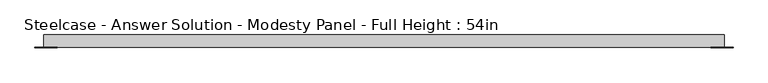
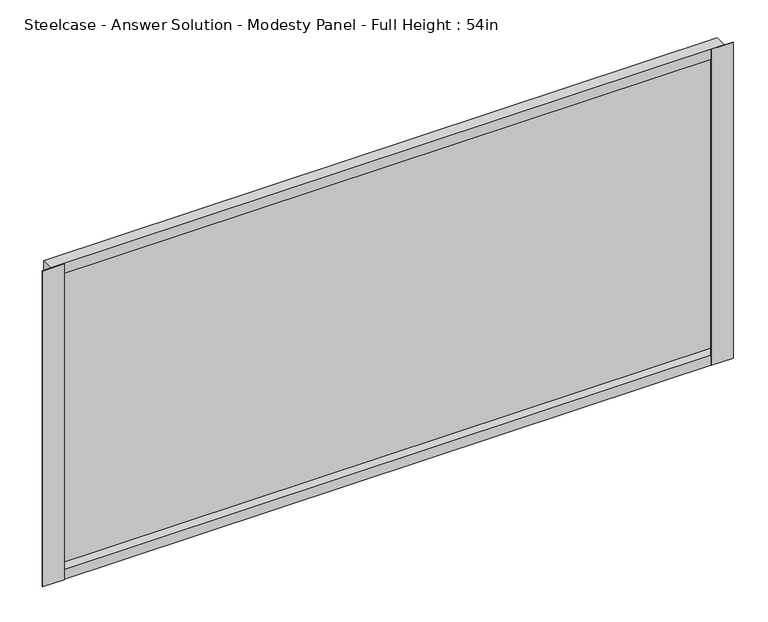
"""IFC4 building model written with IfcOpenShell, lengths in millimetres: furniture geometry, Steelcase - Answer Solution - Modesty Panel - Full Height : 54in."""

from ifc_helpers import new_model, si_unit, frame, origin, place, context, project, spatial, polyline, outline, extrude, faceted_brep, source, transform, mapped, element, save


def steelcase_answer_solution_modesty_panel_full_height_54in_4394ff8e(model_context):
    return source(origin(), model_context, "Body", "SolidModel", [
        extrude(outline(polyline([(1915.1400478, -14.2668826), (1915.1400478, -15.0593624), (1870.7248254, -15.0593624), (1870.7248254, -14.2668826), (1915.1400478, -14.2668826)])), frame((0.0, 0.0, 17.653), z_axis=(0.0, 0.0, 1.0), x_axis=(1.0, 0.0, 0.0)), (0.0, 0.0, 1.0), 678.18),
        extrude(outline(polyline([(556.9673392, -14.2668826), (556.9673392, -15.0593624), (512.5520826, -15.0593624), (512.5520826, -14.2668826), (556.9673392, -14.2668826)])), frame((0.0, 0.0, 17.653), z_axis=(0.0, 0.0, 1.0), x_axis=(1.0, 0.0, 0.0)), (0.0, 0.0, 1.0), 678.18),
        faceted_brep([(530.0780827, 10.9045177, 17.653), (530.0780827, -14.2668826, 17.653), (530.0780827, -14.2668826, 695.833), (530.0780827, 10.9045177, 695.833), (1897.6140827, -14.2668826, 17.653), (1897.6140827, 10.9045177, 17.653), (1897.6140827, 10.9045177, 695.833), (1897.6140827, -14.2668826, 695.833), (1896.8216165, 4.7831174, 39.243), (530.8705628, 4.7831174, 39.243), (530.8705628, -14.2668826, 39.243), (1896.8216165, -14.2668826, 39.243), (530.8705628, -14.2668826, 674.243), (1896.8216165, -14.2668826, 674.243), (530.8705628, 4.7831174, 674.243), (1896.8216165, 4.7831174, 674.243)], [[[0, 1, 2, 3]], [[4, 5, 6, 7]], [[8, 9, 10, 11]], [[0, 3, 6, 5]], [[4, 1, 0, 5]], [[2, 1, 4, 7], [10, 12, 13, 11]], [[3, 2, 7, 6]], [[14, 15, 13, 12]], [[9, 8, 15, 14]], [[12, 10, 9, 14]], [[11, 13, 15, 8]]]),
    ])


if __name__ == "__main__":
    model = new_model("IFC4")
    model_context = context("Model", 3, world=origin())
    ifc_project = project(units=[si_unit("LENGTHUNIT", "METRE", prefix="MILLI")], contexts=[model_context])
    site = spatial("IfcSite", under=ifc_project)
    building = spatial("IfcBuilding", under=site)
    placement = place(None, origin())
    steelcase_answer_solution_modesty_panel_full_height_54in_shape = steelcase_answer_solution_modesty_panel_full_height_54in_4394ff8e(model_context)
    element("IfcFurniture", 1, ObjectType="Steelcase - Answer Solution - Modesty Panel - Full Height : 54in", at=placement, inside=building, context=model_context, shape_type="MappedRepresentation", body=[
        mapped(steelcase_answer_solution_modesty_panel_full_height_54in_shape, transform((0.0, 0.0, 0.0), x_axis=(1.0, 0.0, 0.0), y_axis=(0.0, 1.0, 0.0), z_axis=(0.0, 0.0, 1.0))),
    ])
    save(model, "model.ifc")
